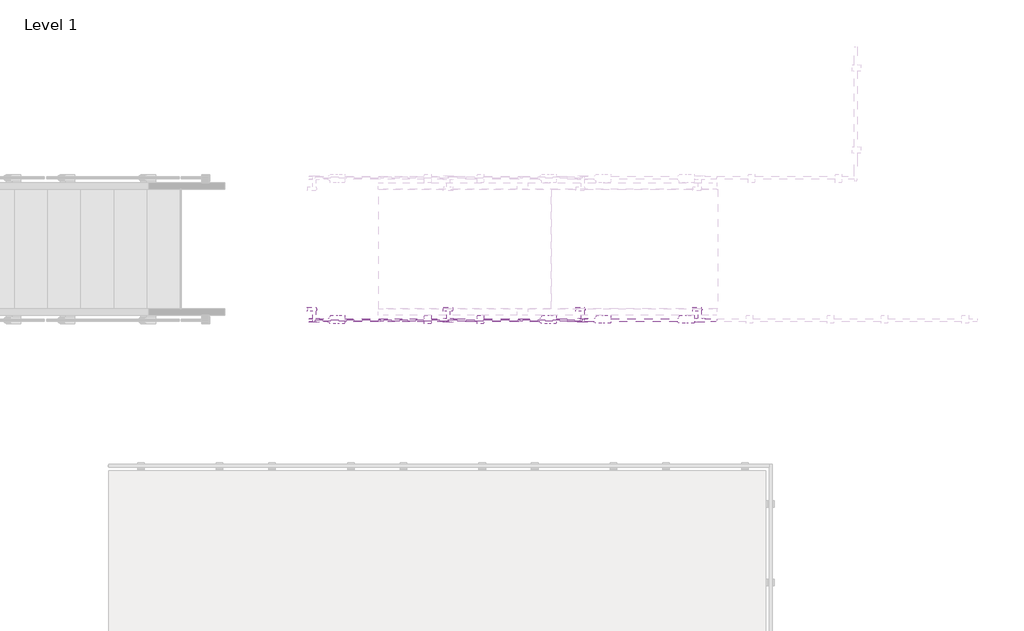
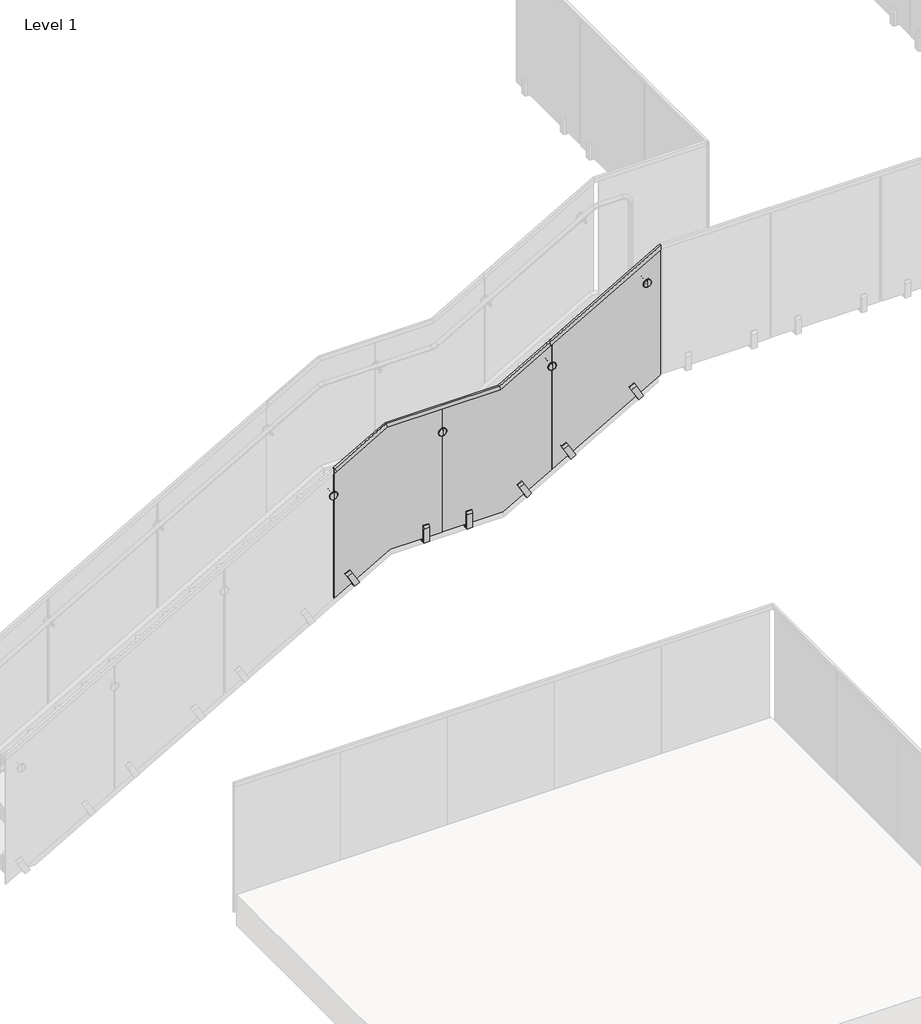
# One storey, part 9 of 17: 4 railings.
"""IFC4 building model written with IfcOpenShell, lengths in millimetres."""

from ifc_helpers import new_model, si_unit, point, frame, frame_2d, origin, place, context, project, spatial, polyline, circle_curve, trimmed, segment, composite_curve, outline, extrude, faceted_brep, transform, mapped, element, save
from ifc_brep_helpers import plane_surface, cylinder_surface, revolved_surface, advanced_brep
from components import standard_glass_04df66c8, standard_glass_2ae5cd5a

model = new_model("IFC4")

# Units and contexts
model_context = context("Model", 3, world=origin())
ifc_project = project(units=[si_unit("LENGTHUNIT", "METRE", prefix="MILLI")], contexts=[model_context])

# Site, building, storey
site = spatial("IfcSite", under=ifc_project)
building = spatial("IfcBuilding", under=site)
storey = spatial("IfcBuildingStorey", under=building, Name="Level 1", Elevation=0.0)

# Railings
placement = place(None, origin())
element("IfcRailing", 1, ObjectType="VIVA-VISIO-Glass-Steel Fascia Mount-Stair-Landing", at=placement, inside=storey, context=model_context, shape_type="SolidModel", body=[
    faceted_brep([(27379.4112561, -12655.1667549, 2993.5714286), (27379.4112561, -12676.8956611, 2993.5714286), (27862.0112561, -12676.8956611, 3269.3428571), (27862.0112561, -12655.1667549, 3269.3428571), (27398.3141496, -12655.1667549, 2960.4913649), (27872.1292611, -12655.1667549, 3231.2428571), (27398.3141496, -12659.681208, 2960.4913649), (27872.1292611, -12659.681208, 3231.2428571), (27381.3015454, -12659.681208, 2990.2634222), (27863.0230566, -12659.681208, 3265.5328571), (27381.3015454, -12672.381208, 2990.2634222), (27863.0230566, -12672.381208, 3265.5328571), (27398.3141496, -12672.381208, 2960.4913649), (27872.1292611, -12672.381208, 3231.2428571), (27398.3141496, -12676.8956611, 2960.4913649), (27872.1292611, -12676.8956611, 3231.2428571), (28928.8112561, -12676.8956611, 3269.3428571), (28928.8112561, -12655.1667549, 3269.3428571), (28938.9292611, -12655.1667549, 3231.2428571), (28938.9292611, -12659.681208, 3231.2428571), (28929.8230566, -12659.681208, 3265.5328571), (28929.8230566, -12672.381208, 3265.5328571), (28938.9292611, -12672.381208, 3231.2428571), (28938.9292611, -12676.8956611, 3231.2428571), (29407.4425061, -12676.8956611, 3542.8464286), (29407.4425061, -12676.8956611, 3498.9647114), (29407.4425061, -12672.381208, 3498.9647114), (29407.4425061, -12672.381208, 3538.4582569), (29407.4425061, -12659.681208, 3538.4582569), (29407.4425061, -12659.681208, 3498.9647114), (29407.4425061, -12655.1667549, 3498.9647114), (29407.4425061, -12655.1667549, 3542.8464286), (27369.8862561, -12676.8956611, 2988.1285714), (27369.8862561, -12655.1667549, 2988.1285714), (27369.8862561, -12655.1667549, 2944.2468543), (27369.8862561, -12659.681208, 2944.2468543), (27369.8862561, -12659.681208, 2983.7403997), (27369.8862561, -12672.381208, 2983.7403997), (27369.8862561, -12672.381208, 2944.2468543), (27369.8862561, -12676.8956611, 2944.2468543)], [[[0, 1, 2, 3]], [[4, 0, 3, 5]], [[6, 4, 5, 7]], [[8, 6, 7, 9]], [[10, 8, 9, 11]], [[12, 10, 11, 13]], [[14, 12, 13, 15]], [[1, 14, 15, 2]], [[3, 2, 16, 17]], [[5, 3, 17, 18]], [[7, 5, 18, 19]], [[9, 7, 19, 20]], [[11, 9, 20, 21]], [[13, 11, 21, 22]], [[15, 13, 22, 23]], [[2, 15, 23, 16]], [[24, 25, 26, 27, 28, 29, 30, 31]], [[17, 16, 24, 31]], [[18, 17, 31, 30]], [[19, 18, 30, 29]], [[20, 19, 29, 28]], [[21, 20, 28, 27]], [[22, 21, 27, 26]], [[23, 22, 26, 25]], [[16, 23, 25, 24]], [[32, 33, 34, 35, 36, 37, 38, 39]], [[33, 32, 1, 0]], [[34, 33, 0, 4]], [[35, 34, 4, 6]], [[36, 35, 6, 8]], [[37, 36, 8, 10]], [[38, 37, 10, 12]], [[39, 38, 12, 14]], [[32, 39, 14, 1]]]),
    extrude(outline(polyline([(0.0, 12.7), (50.8, 12.7), (50.8, 0.0), (0.0, 0.0), (0.0, 12.7)])), frame((29178.329198, -12640.5617549, 2085.3316006), z_axis=(-0.4961389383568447, 0.0, 0.868243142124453), x_axis=(0.868243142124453, 0.0, 0.4961389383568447)), (0.0, 0.0, 1.0), 135.5680003),
    extrude(outline(polyline([(0.0, 12.7), (50.8, 12.7), (50.8, 0.0), (0.0, 0.0), (0.0, 12.7)])), frame((29179.5727872, -12672.3117549, 2083.1553196), z_axis=(-0.496138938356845, 0.0, 0.8682431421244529), x_axis=(0.8682431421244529, 0.0, 0.496138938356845)), (0.0, 0.0, 1.0), 36.5125),
    extrude(outline(polyline([(0.0, 0.0), (0.0, 19.05), (166.6875, 19.05), (166.6875, 11.1125), (139.7, 0.0), (0.0, 0.0)])), frame((29179.5727872, -12640.5617549, 2083.1553196), z_axis=(0.868243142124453, 0.0, 0.49613893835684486), x_axis=(-0.49613893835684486, 0.0, 0.868243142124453)), (0.0, 0.0, 1.0), 50.8),
    extrude(outline(polyline([(0.0, 50.8), (139.7, 50.8), (166.6875, 39.6875), (166.6875, 31.75), (0.0, 31.75), (0.0, 50.8)])), frame((29179.5727872, -12640.5617549, 2083.1553196), z_axis=(0.868243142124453, 0.0, 0.49613893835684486), x_axis=(-0.49613893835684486, 0.0, 0.868243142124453)), (0.0, 0.0, 1.0), 50.8),
    extrude(outline(polyline([(28616.8479341, -12627.8617549), (28667.6479341, -12627.8617549), (28667.6479341, -12640.5617549), (28616.8479341, -12640.5617549), (28616.8479341, -12627.8617549)])), frame((0.0, 0.0, 1969.2196818), z_axis=(0.0, 0.0, 1.0), x_axis=(1.0, 0.0, 0.0)), (0.0, 0.0, 1.0), 135.5680003),
    extrude(outline(polyline([(28616.8479341, -12659.6117549), (28667.6479341, -12659.6117549), (28667.6479341, -12672.3117549), (28616.8479341, -12672.3117549), (28616.8479341, -12659.6117549)])), frame((0.0, 0.0, 1966.7131478), z_axis=(0.0, 0.0, 1.0), x_axis=(1.0, 0.0, 0.0)), (0.0, 0.0, 1.0), 36.5125),
    extrude(outline(polyline([(-12640.5617549, 1966.7131478), (-12659.6117549, 1966.7131478), (-12659.6117549, 2133.4006478), (-12651.6742549, 2133.4006478), (-12640.5617549, 2106.4131478), (-12640.5617549, 1966.7131478)])), frame((28616.8479341, 0.0, 0.0), z_axis=(1.0, 0.0, 0.0), x_axis=(0.0, 1.0, 0.0)), (0.0, 0.0, 1.0), 50.8),
    extrude(outline(polyline([(-12691.3617549, 1966.7131478), (-12691.3617549, 2106.4131478), (-12680.2492549, 2133.4006478), (-12672.3117549, 2133.4006478), (-12672.3117549, 1966.7131478), (-12691.3617549, 1966.7131478)])), frame((28616.8479341, 0.0, 0.0), z_axis=(1.0, 0.0, 0.0), x_axis=(0.0, 1.0, 0.0)), (0.0, 0.0, 1.0), 50.8),
    extrude(outline(composite_curve([segment(trimmed(circle_curve(frame_2d((0.0, -7.0)), 7.0), [point((0.0, -14.0))], [point((0.0, 0.0))], False, "CARTESIAN"), True, "CONTINUOUS"), segment(trimmed(circle_curve(frame_2d((0.0, -7.0)), 7.0), [point((0.0, 0.0))], [point((0.0, -14.0))], False, "CARTESIAN"), True, "CONTINUOUS")], self_intersect=False)), frame((28393.4268811, -12590.7418939, 2977.3279722), z_axis=(-0.0016124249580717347, 0.0, 0.9999987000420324), x_axis=(-0.9999987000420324, 0.0, -0.0016124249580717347)), (0.0, 0.0, 1.0), 52.8378352),
    extrude(outline(composite_curve([segment(polyline([(5.2466064, -13.9247915), (4.2292193, -14.9511811)]), True, "CONTINUOUS"), segment(trimmed(circle_curve(frame_2d((3.1638974, -13.8952033)), 1.5), [point((4.2292193, -14.9511811))], [point((2.0329757, -14.8806047))], False, "CARTESIAN"), True, "CONTINUOUS"), segment(trimmed(circle_curve(frame_2d((18.6575252, -0.3952033)), 22.05), [point((2.0329757, -14.8806047))], [point((2.0329757, 14.0901982))], False, "CARTESIAN"), True, "CONTINUOUS"), segment(trimmed(circle_curve(frame_2d((3.1638974, 13.1047967)), 1.5), [point((2.0329757, 14.0901982))], [point((4.2292193, 14.1607746))], False, "CARTESIAN"), True, "CONTINUOUS"), segment(polyline([(4.2292193, 14.1607746), (5.2466064, 13.134385)]), True, "CONTINUOUS"), segment(trimmed(circle_curve(frame_2d((18.6575252, -0.3952033)), 19.05), [point((5.2466064, 13.134385))], [point((5.2466064, -13.9247915))], True, "CARTESIAN"), True, "CONTINUOUS")], self_intersect=False)), frame((28429.1944392, -12582.0146616, 3033.4996008), z_axis=(-0.9999989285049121, 0.0, 0.0014638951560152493), x_axis=(0.0014638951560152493, 0.0, 0.9999989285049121)), (0.0, 0.0, 1.0), 74.5229187),
    extrude(outline(composite_curve([segment(trimmed(circle_curve(frame_2d((3002.8968571, 28393.4268811)), 11.0132813), [point((3002.8968571, 28404.4401623))], [point((3002.8968571, 28382.4135998))], False, "CARTESIAN"), True, "CONTINUOUS"), segment(trimmed(circle_curve(frame_2d((3002.8968571, 28393.4268811)), 11.0132813), [point((3002.8968571, 28382.4135998))], [point((3002.8968571, 28404.4401623))], False, "CARTESIAN"), True, "CONTINUOUS")], self_intersect=False)), frame((0.0, -12649.9875361, 0.0), z_axis=(0.0, 1.0, 0.0), x_axis=(0.0, 0.0, 1.0)), (0.0, 0.0, 1.0), 79.2757812),
    advanced_brep(
    [(28393.4268811, -12681.9359736, 3002.8968571), (28393.4268811, -12681.9359736, 3039.0124821), (28393.4268811, -12681.9359736, 2966.7812321), (28393.4268811, -12649.9875361, 2966.7812321), (28393.4268811, -12649.9875361, 3039.0124821), (28393.4268811, -12649.9875361, 3002.8968571), (28393.4268811, -12651.9719111, 2964.7968571), (28393.4268811, -12651.9719111, 3040.9968571), (28393.4268811, -12659.6117549, 2964.7968571), (28393.4268811, -12659.6117549, 3040.9968571), (28393.4268811, -12659.6117549, 2990.1968571), (28393.4268811, -12659.6117549, 3015.5968571), (28393.4268811, -12672.3117549, 2990.1968571), (28393.4268811, -12672.3117549, 3015.5968571), (28393.4268811, -12672.3117549, 2964.7968571), (28393.4268811, -12672.3117549, 3040.9968571), (28393.4268811, -12679.9515986, 2964.7968571), (28393.4268811, -12679.9515986, 3040.9968571)],
    [
        (0, 1),
        (1, 2, circle_curve(frame((28393.4268811, -12681.9359736, 3002.8968571), z_axis=(0.0, -1.0, 0.0), x_axis=(0.0, 0.0, 1.0)), 36.115625)),
        (2, 0),
        (2, 1, circle_curve(frame((28393.4268811, -12681.9359736, 3002.8968571), z_axis=(0.0, -1.0, 0.0), x_axis=(0.0, 0.0, 1.0)), 36.115625)),
        (3, 4, circle_curve(frame((28393.4268811, -12649.9875361, 3002.8968571), z_axis=(0.0, 1.0, 0.0), x_axis=(0.0, 0.0, 1.0)), 36.115625)),
        (4, 5),
        (5, 3),
        (4, 3, circle_curve(frame((28393.4268811, -12649.9875361, 3002.8968571), z_axis=(0.0, 1.0, 0.0), x_axis=(0.0, 0.0, 1.0)), 36.115625)),
        (6, 7, circle_curve(frame((28393.4268811, -12651.9719111, 3002.8968571), z_axis=(0.0, 1.0, 0.0), x_axis=(0.0, 0.0, 1.0)), 38.1)),
        (7, 4),
        (3, 6),
        (7, 6, circle_curve(frame((28393.4268811, -12651.9719111, 3002.8968571), z_axis=(0.0, 1.0, 0.0), x_axis=(0.0, 0.0, 1.0)), 38.1)),
        (8, 9, circle_curve(frame((28393.4268811, -12659.6117549, 3002.8968571), z_axis=(0.0, 1.0, 0.0), x_axis=(0.0, 0.0, 1.0)), 38.1)),
        (9, 7),
        (6, 8),
        (9, 8, circle_curve(frame((28393.4268811, -12659.6117549, 3002.8968571), z_axis=(0.0, 1.0, 0.0), x_axis=(0.0, 0.0, 1.0)), 38.1)),
        (10, 11, circle_curve(frame((28393.4268811, -12659.6117549, 3002.8968571), z_axis=(0.0, 1.0, 0.0), x_axis=(0.0, 0.0, 1.0)), 12.7)),
        (11, 9),
        (8, 10),
        (11, 10, circle_curve(frame((28393.4268811, -12659.6117549, 3002.8968571), z_axis=(0.0, 1.0, 0.0), x_axis=(0.0, 0.0, 1.0)), 12.7)),
        (12, 13, circle_curve(frame((28393.4268811, -12672.3117549, 3002.8968571), z_axis=(0.0, 1.0, 0.0), x_axis=(0.0, 0.0, 1.0)), 12.7)),
        (13, 11),
        (10, 12),
        (13, 12, circle_curve(frame((28393.4268811, -12672.3117549, 3002.8968571), z_axis=(0.0, 1.0, 0.0), x_axis=(0.0, 0.0, 1.0)), 12.7)),
        (14, 15, circle_curve(frame((28393.4268811, -12672.3117549, 3002.8968571), z_axis=(0.0, 1.0, 0.0), x_axis=(0.0, 0.0, 1.0)), 38.1)),
        (15, 13),
        (12, 14),
        (15, 14, circle_curve(frame((28393.4268811, -12672.3117549, 3002.8968571), z_axis=(0.0, 1.0, 0.0), x_axis=(0.0, 0.0, 1.0)), 38.1)),
        (16, 17, circle_curve(frame((28393.4268811, -12679.9515986, 3002.8968571), z_axis=(0.0, 1.0, 0.0), x_axis=(0.0, 0.0, 1.0)), 38.1)),
        (17, 15),
        (14, 16),
        (17, 16, circle_curve(frame((28393.4268811, -12679.9515986, 3002.8968571), z_axis=(0.0, 1.0, 0.0), x_axis=(0.0, 0.0, 1.0)), 38.1)),
        (1, 17),
        (16, 2),
    ],
    [
        plane_surface(frame((28393.4268811, -12681.9359736, 3002.8968571), z_axis=(0.0, -1.0, 0.0), x_axis=(0.0, 0.0, 1.0))),
        plane_surface(frame((28393.4268811, -12649.9875361, 3002.8968571), z_axis=(0.0, 1.0, 0.0), x_axis=(0.0, 0.0, 1.0))),
        revolved_surface(polyline([(28393.4268811, -12649.9875361, 3039.0124821), (28393.4268811, -12651.9719111, 3040.9968571)]), (28393.4268811, -12718.0515986, 3002.8968571), (0.0, -1.0, 0.0)),
        cylinder_surface(frame((28393.4268811, -12718.0515986, 3002.8968571), z_axis=(0.0, -1.0, 0.0), x_axis=(0.0, 0.0, 1.0)), 38.1),
        plane_surface(frame((28393.4268811, -12659.6117549, 3002.8968571), z_axis=(0.0, -1.0, 0.0), x_axis=(0.0, 0.0, 1.0))),
        cylinder_surface(frame((28393.4268811, -12718.0515986, 3002.8968571), z_axis=(0.0, -1.0, 0.0), x_axis=(0.0, 0.0, 1.0)), 12.7),
        plane_surface(frame((28393.4268811, -12672.3117549, 3002.8968571), z_axis=(0.0, 1.0, 0.0), x_axis=(0.0, 0.0, 1.0))),
        revolved_surface(polyline([(28393.4268811, -12679.9515986, 3040.9968571), (28393.4268811, -12681.9359736, 3039.0124821)]), (28393.4268811, -12718.0515986, 3002.8968571), (0.0, -1.0, 0.0)),
    ],
    [
        (0, [[1, 2, 3]]),
        (0, [[-3, 4, -1]]),
        (1, [[5, 6, 7]]),
        (1, [[8, -7, -6]]),
        (2, [[9, 10, -5, 11]]),
        (2, [[12, -11, -8, -10]]),
        (3, [[13, 14, -9, 15]]),
        (3, [[16, -15, -12, -14]]),
        (4, [[17, 18, -13, 19]]),
        (4, [[20, -19, -16, -18]]),
        (5, [[21, 22, -17, 23]]),
        (5, [[24, -23, -20, -22]]),
        (6, [[25, 26, -21, 27]]),
        (6, [[28, -27, -24, -26]]),
        (3, [[29, 30, -25, 31]]),
        (3, [[32, -31, -28, -30]]),
        (7, [[-2, 33, -29, 34]]),
        (7, [[-4, -34, -32, -33]]),
    ],
),
    extrude(outline(polyline([(28211.2416841, -12627.8617549), (28262.0416841, -12627.8617549), (28262.0416841, -12640.5617549), (28211.2416841, -12640.5617549), (28211.2416841, -12627.8617549)])), frame((0.0, 0.0, 1969.2196818), z_axis=(0.0, 0.0, 1.0), x_axis=(1.0, 0.0, 0.0)), (0.0, 0.0, 1.0), 135.5680003),
    extrude(outline(polyline([(28211.2416841, -12659.6117549), (28262.0416841, -12659.6117549), (28262.0416841, -12672.3117549), (28211.2416841, -12672.3117549), (28211.2416841, -12659.6117549)])), frame((0.0, 0.0, 1966.7131478), z_axis=(0.0, 0.0, 1.0), x_axis=(1.0, 0.0, 0.0)), (0.0, 0.0, 1.0), 36.5125),
    extrude(outline(polyline([(-12640.5617549, 1966.7131478), (-12659.6117549, 1966.7131478), (-12659.6117549, 2133.4006478), (-12651.6742549, 2133.4006478), (-12640.5617549, 2106.4131478), (-12640.5617549, 1966.7131478)])), frame((28211.2416841, 0.0, 0.0), z_axis=(1.0, 0.0, 0.0), x_axis=(0.0, 1.0, 0.0)), (0.0, 0.0, 1.0), 50.8),
    extrude(outline(polyline([(-12691.3617549, 1966.7131478), (-12691.3617549, 2106.4131478), (-12680.2492549, 2133.4006478), (-12672.3117549, 2133.4006478), (-12672.3117549, 1966.7131478), (-12691.3617549, 1966.7131478)])), frame((28211.2416841, 0.0, 0.0), z_axis=(1.0, 0.0, 0.0), x_axis=(0.0, 1.0, 0.0)), (0.0, 0.0, 1.0), 50.8),
    extrude(outline(polyline([(0.0, 12.7), (50.8, 12.7), (50.8, 0.0), (0.0, 0.0), (0.0, 12.7)])), frame((27555.904198, -12640.5617549, 1767.8316006), z_axis=(-0.4961389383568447, 0.0, 0.868243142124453), x_axis=(0.868243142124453, 0.0, 0.4961389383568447)), (0.0, 0.0, 1.0), 135.5680003),
    extrude(outline(polyline([(0.0, 12.7), (50.8, 12.7), (50.8, 0.0), (0.0, 0.0), (0.0, 12.7)])), frame((27557.1477872, -12672.3117549, 1765.6553196), z_axis=(-0.496138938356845, 0.0, 0.8682431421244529), x_axis=(0.8682431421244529, 0.0, 0.496138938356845)), (0.0, 0.0, 1.0), 36.5125),
    extrude(outline(polyline([(0.0, 0.0), (0.0, 19.05), (166.6875, 19.05), (166.6875, 11.1125), (139.7, 0.0), (0.0, 0.0)])), frame((27557.1477872, -12640.5617549, 1765.6553196), z_axis=(0.868243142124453, 0.0, 0.49613893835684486), x_axis=(-0.49613893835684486, 0.0, 0.868243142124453)), (0.0, 0.0, 1.0), 50.8),
    extrude(outline(polyline([(0.0, 50.8), (139.7, 50.8), (166.6875, 39.6875), (166.6875, 31.75), (0.0, 31.75), (0.0, 50.8)])), frame((27557.1477872, -12640.5617549, 1765.6553196), z_axis=(0.868243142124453, 0.0, 0.49613893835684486), x_axis=(-0.49613893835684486, 0.0, 0.868243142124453)), (0.0, 0.0, 1.0), 50.8),
    extrude(outline(composite_curve([segment(trimmed(circle_curve(frame_2d((0.0, -7.0)), 7.0), [point((0.0, -14.0))], [point((0.0, 0.0))], False, "CARTESIAN"), True, "CONTINUOUS"), segment(trimmed(circle_curve(frame_2d((0.0, -7.0)), 7.0), [point((0.0, 0.0))], [point((0.0, -14.0))], False, "CARTESIAN"), True, "CONTINUOUS")], self_intersect=False)), frame((29438.0186992, -12590.7418939, 3273.5679131), z_axis=(-0.5018548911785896, 0.0, 0.8649518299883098), x_axis=(-0.8649518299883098, 0.0, -0.5018548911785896)), (0.0, 0.0, 1.0), 52.8378352),
    extrude(outline(composite_curve([segment(trimmed(circle_curve(frame_2d((18.6575252, 0.3952033)), 19.05), [point((5.2466064, 13.9247915))], [point((5.2466064, -13.134385))], True, "CARTESIAN"), True, "CONTINUOUS"), segment(polyline([(5.2466064, -13.134385), (4.2292193, -14.1607746)]), True, "CONTINUOUS"), segment(trimmed(circle_curve(frame_2d((3.1638974, -13.1047967)), 1.5), [point((4.2292193, -14.1607746))], [point((2.0329757, -14.0901982))], False, "CARTESIAN"), True, "CONTINUOUS"), segment(trimmed(circle_curve(frame_2d((18.6575252, 0.3952033)), 22.05), [point((2.0329757, -14.0901982))], [point((2.0329757, 14.8806047))], False, "CARTESIAN"), True, "CONTINUOUS"), segment(trimmed(circle_curve(frame_2d((3.1638974, 13.8952033)), 1.5), [point((2.0329757, 14.8806047))], [point((4.2292193, 14.9511811))], False, "CARTESIAN"), True, "CONTINUOUS"), segment(polyline([(4.2292193, 14.9511811), (5.2466064, 13.9247915)]), True, "CONTINUOUS")], self_intersect=False)), frame((29373.5509171, -12582.0146616, 3301.3090959), z_axis=(0.8664916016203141, 0.0, 0.49919165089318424), x_axis=(-0.49919165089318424, 0.0, 0.8664916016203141)), (0.0, 0.0, 1.0), 74.5229187),
    extrude(outline(composite_curve([segment(trimmed(circle_curve(frame_2d((3295.7044286, 29425.2225061)), 11.0132813), [point((3295.7044286, 29436.2357873))], [point((3295.7044286, 29414.2092248))], False, "CARTESIAN"), True, "CONTINUOUS"), segment(trimmed(circle_curve(frame_2d((3295.7044286, 29425.2225061)), 11.0132813), [point((3295.7044286, 29414.2092248))], [point((3295.7044286, 29436.2357873))], False, "CARTESIAN"), True, "CONTINUOUS")], self_intersect=False)), frame((0.0, -12649.9875361, 0.0), z_axis=(0.0, 1.0, 0.0), x_axis=(0.0, 0.0, 1.0)), (0.0, 0.0, 1.0), 79.2757812),
    advanced_brep(
    [(29425.2225061, -12681.9359736, 3295.7044286), (29425.2225061, -12681.9359736, 3331.8200536), (29425.2225061, -12681.9359736, 3259.5888036), (29425.2225061, -12649.9875361, 3259.5888036), (29425.2225061, -12649.9875361, 3331.8200536), (29425.2225061, -12649.9875361, 3295.7044286), (29425.2225061, -12651.9719111, 3257.6044286), (29425.2225061, -12651.9719111, 3333.8044286), (29425.2225061, -12659.6117549, 3257.6044286), (29425.2225061, -12659.6117549, 3333.8044286), (29425.2225061, -12659.6117549, 3283.0044286), (29425.2225061, -12659.6117549, 3308.4044286), (29425.2225061, -12672.3117549, 3283.0044286), (29425.2225061, -12672.3117549, 3308.4044286), (29425.2225061, -12672.3117549, 3257.6044286), (29425.2225061, -12672.3117549, 3333.8044286), (29425.2225061, -12679.9515986, 3257.6044286), (29425.2225061, -12679.9515986, 3333.8044286)],
    [
        (0, 1),
        (1, 2, circle_curve(frame((29425.2225061, -12681.9359736, 3295.7044286), z_axis=(0.0, -1.0, 0.0), x_axis=(0.0, 0.0, 1.0)), 36.115625)),
        (2, 0),
        (2, 1, circle_curve(frame((29425.2225061, -12681.9359736, 3295.7044286), z_axis=(0.0, -1.0, 0.0), x_axis=(0.0, 0.0, 1.0)), 36.115625)),
        (3, 4, circle_curve(frame((29425.2225061, -12649.9875361, 3295.7044286), z_axis=(0.0, 1.0, 0.0), x_axis=(0.0, 0.0, 1.0)), 36.115625)),
        (4, 5),
        (5, 3),
        (4, 3, circle_curve(frame((29425.2225061, -12649.9875361, 3295.7044286), z_axis=(0.0, 1.0, 0.0), x_axis=(0.0, 0.0, 1.0)), 36.115625)),
        (6, 7, circle_curve(frame((29425.2225061, -12651.9719111, 3295.7044286), z_axis=(0.0, 1.0, 0.0), x_axis=(0.0, 0.0, 1.0)), 38.1)),
        (7, 4),
        (3, 6),
        (7, 6, circle_curve(frame((29425.2225061, -12651.9719111, 3295.7044286), z_axis=(0.0, 1.0, 0.0), x_axis=(0.0, 0.0, 1.0)), 38.1)),
        (8, 9, circle_curve(frame((29425.2225061, -12659.6117549, 3295.7044286), z_axis=(0.0, 1.0, 0.0), x_axis=(0.0, 0.0, 1.0)), 38.1)),
        (9, 7),
        (6, 8),
        (9, 8, circle_curve(frame((29425.2225061, -12659.6117549, 3295.7044286), z_axis=(0.0, 1.0, 0.0), x_axis=(0.0, 0.0, 1.0)), 38.1)),
        (10, 11, circle_curve(frame((29425.2225061, -12659.6117549, 3295.7044286), z_axis=(0.0, 1.0, 0.0), x_axis=(0.0, 0.0, 1.0)), 12.7)),
        (11, 9),
        (8, 10),
        (11, 10, circle_curve(frame((29425.2225061, -12659.6117549, 3295.7044286), z_axis=(0.0, 1.0, 0.0), x_axis=(0.0, 0.0, 1.0)), 12.7)),
        (12, 13, circle_curve(frame((29425.2225061, -12672.3117549, 3295.7044286), z_axis=(0.0, 1.0, 0.0), x_axis=(0.0, 0.0, 1.0)), 12.7)),
        (13, 11),
        (10, 12),
        (13, 12, circle_curve(frame((29425.2225061, -12672.3117549, 3295.7044286), z_axis=(0.0, 1.0, 0.0), x_axis=(0.0, 0.0, 1.0)), 12.7)),
        (14, 15, circle_curve(frame((29425.2225061, -12672.3117549, 3295.7044286), z_axis=(0.0, 1.0, 0.0), x_axis=(0.0, 0.0, 1.0)), 38.1)),
        (15, 13),
        (12, 14),
        (15, 14, circle_curve(frame((29425.2225061, -12672.3117549, 3295.7044286), z_axis=(0.0, 1.0, 0.0), x_axis=(0.0, 0.0, 1.0)), 38.1)),
        (16, 17, circle_curve(frame((29425.2225061, -12679.9515986, 3295.7044286), z_axis=(0.0, 1.0, 0.0), x_axis=(0.0, 0.0, 1.0)), 38.1)),
        (17, 15),
        (14, 16),
        (17, 16, circle_curve(frame((29425.2225061, -12679.9515986, 3295.7044286), z_axis=(0.0, 1.0, 0.0), x_axis=(0.0, 0.0, 1.0)), 38.1)),
        (1, 17),
        (16, 2),
    ],
    [
        plane_surface(frame((29425.2225061, -12681.9359736, 3295.7044286), z_axis=(0.0, -1.0, 0.0), x_axis=(0.0, 0.0, 1.0))),
        plane_surface(frame((29425.2225061, -12649.9875361, 3295.7044286), z_axis=(0.0, 1.0, 0.0), x_axis=(0.0, 0.0, 1.0))),
        revolved_surface(polyline([(29425.2225061, -12649.9875361, 3331.8200536), (29425.2225061, -12651.9719111, 3333.8044286)]), (29425.2225061, -12718.0515986, 3295.7044286), (0.0, -1.0, 0.0)),
        cylinder_surface(frame((29425.2225061, -12718.0515986, 3295.7044286), z_axis=(0.0, -1.0, 0.0), x_axis=(0.0, 0.0, 1.0)), 38.1),
        plane_surface(frame((29425.2225061, -12659.6117549, 3295.7044286), z_axis=(0.0, -1.0, 0.0), x_axis=(0.0, 0.0, 1.0))),
        cylinder_surface(frame((29425.2225061, -12718.0515986, 3295.7044286), z_axis=(0.0, -1.0, 0.0), x_axis=(0.0, 0.0, 1.0)), 12.7),
        plane_surface(frame((29425.2225061, -12672.3117549, 3295.7044286), z_axis=(0.0, 1.0, 0.0), x_axis=(0.0, 0.0, 1.0))),
        revolved_surface(polyline([(29425.2225061, -12679.9515986, 3333.8044286), (29425.2225061, -12681.9359736, 3331.8200536)]), (29425.2225061, -12718.0515986, 3295.7044286), (0.0, -1.0, 0.0)),
    ],
    [
        (0, [[1, 2, 3]]),
        (0, [[-3, 4, -1]]),
        (1, [[5, 6, 7]]),
        (1, [[8, -7, -6]]),
        (2, [[9, 10, -5, 11]]),
        (2, [[12, -11, -8, -10]]),
        (3, [[13, 14, -9, 15]]),
        (3, [[16, -15, -12, -14]]),
        (4, [[17, 18, -13, 19]]),
        (4, [[20, -19, -16, -18]]),
        (5, [[21, 22, -17, 23]]),
        (5, [[24, -23, -20, -22]]),
        (6, [[25, 26, -21, 27]]),
        (6, [[28, -27, -24, -26]]),
        (3, [[29, 30, -25, 31]]),
        (3, [[32, -31, -28, -30]]),
        (7, [[-2, 33, -29, 34]]),
        (7, [[-4, -34, -32, -33]]),
    ],
),
    extrude(outline(composite_curve([segment(trimmed(circle_curve(frame_2d((0.0, -7.0)), 7.0), [point((0.0, -14.0))], [point((0.0, 0.0))], False, "CARTESIAN"), True, "CONTINUOUS"), segment(trimmed(circle_curve(frame_2d((0.0, -7.0)), 7.0), [point((0.0, 0.0))], [point((0.0, -14.0))], False, "CARTESIAN"), True, "CONTINUOUS")], self_intersect=False)), frame((27379.5074492, -12590.7418939, 2706.8757702), z_axis=(-0.5018548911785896, 0.0, 0.8649518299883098), x_axis=(-0.8649518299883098, 0.0, -0.5018548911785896)), (0.0, 0.0, 1.0), 52.8378352),
    extrude(outline(composite_curve([segment(trimmed(circle_curve(frame_2d((18.6575251, 0.3952033)), 19.05), [point((5.2466063, 13.9247915))], [point((5.2466063, -13.134385))], True, "CARTESIAN"), True, "CONTINUOUS"), segment(polyline([(5.2466063, -13.134385), (4.2292193, -14.1607746)]), True, "CONTINUOUS"), segment(trimmed(circle_curve(frame_2d((3.1638974, -13.1047967)), 1.5), [point((4.2292193, -14.1607746))], [point((2.0329756, -14.0901982))], False, "CARTESIAN"), True, "CONTINUOUS"), segment(trimmed(circle_curve(frame_2d((18.6575251, 0.3952033)), 22.05), [point((2.0329756, -14.0901982))], [point((2.0329756, 14.8806047))], False, "CARTESIAN"), True, "CONTINUOUS"), segment(trimmed(circle_curve(frame_2d((3.1638974, 13.8952033)), 1.5), [point((2.0329756, 14.8806047))], [point((4.2292193, 14.9511811))], False, "CARTESIAN"), True, "CONTINUOUS"), segment(polyline([(4.2292193, 14.9511811), (5.2466063, 13.9247915)]), True, "CONTINUOUS")], self_intersect=False)), frame((27315.0396672, -12582.0146616, 2734.6169531), z_axis=(0.8664916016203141, 0.0, 0.49919165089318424), x_axis=(-0.49919165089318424, 0.0, 0.8664916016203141)), (0.0, 0.0, 1.0), 74.5229187),
    extrude(outline(composite_curve([segment(trimmed(circle_curve(frame_2d((2729.0122857, 27366.7112561)), 11.0132813), [point((2729.0122857, 27377.7245373))], [point((2729.0122857, 27355.6979748))], False, "CARTESIAN"), True, "CONTINUOUS"), segment(trimmed(circle_curve(frame_2d((2729.0122857, 27366.7112561)), 11.0132813), [point((2729.0122857, 27355.6979748))], [point((2729.0122857, 27377.7245373))], False, "CARTESIAN"), True, "CONTINUOUS")], self_intersect=False)), frame((0.0, -12649.9875361, 0.0), z_axis=(0.0, 1.0, 0.0), x_axis=(0.0, 0.0, 1.0)), (0.0, 0.0, 1.0), 79.2757812),
    advanced_brep(
    [(27366.7112561, -12681.9359736, 2729.0122857), (27366.7112561, -12681.9359736, 2765.1279107), (27366.7112561, -12681.9359736, 2692.8966607), (27366.7112561, -12649.9875361, 2692.8966607), (27366.7112561, -12649.9875361, 2765.1279107), (27366.7112561, -12649.9875361, 2729.0122857), (27366.7112561, -12651.9719111, 2690.9122857), (27366.7112561, -12651.9719111, 2767.1122857), (27366.7112561, -12659.6117549, 2690.9122857), (27366.7112561, -12659.6117549, 2767.1122857), (27366.7112561, -12659.6117549, 2716.3122857), (27366.7112561, -12659.6117549, 2741.7122857), (27366.7112561, -12672.3117549, 2716.3122857), (27366.7112561, -12672.3117549, 2741.7122857), (27366.7112561, -12672.3117549, 2690.9122857), (27366.7112561, -12672.3117549, 2767.1122857), (27366.7112561, -12679.9515986, 2690.9122857), (27366.7112561, -12679.9515986, 2767.1122857)],
    [
        (0, 1),
        (1, 2, circle_curve(frame((27366.7112561, -12681.9359736, 2729.0122857), z_axis=(0.0, -1.0, 0.0), x_axis=(0.0, 0.0, 1.0)), 36.115625)),
        (2, 0),
        (2, 1, circle_curve(frame((27366.7112561, -12681.9359736, 2729.0122857), z_axis=(0.0, -1.0, 0.0), x_axis=(0.0, 0.0, 1.0)), 36.115625)),
        (3, 4, circle_curve(frame((27366.7112561, -12649.9875361, 2729.0122857), z_axis=(0.0, 1.0, 0.0), x_axis=(0.0, 0.0, 1.0)), 36.115625)),
        (4, 5),
        (5, 3),
        (4, 3, circle_curve(frame((27366.7112561, -12649.9875361, 2729.0122857), z_axis=(0.0, 1.0, 0.0), x_axis=(0.0, 0.0, 1.0)), 36.115625)),
        (6, 7, circle_curve(frame((27366.7112561, -12651.9719111, 2729.0122857), z_axis=(0.0, 1.0, 0.0), x_axis=(0.0, 0.0, 1.0)), 38.1)),
        (7, 4),
        (3, 6),
        (7, 6, circle_curve(frame((27366.7112561, -12651.9719111, 2729.0122857), z_axis=(0.0, 1.0, 0.0), x_axis=(0.0, 0.0, 1.0)), 38.1)),
        (8, 9, circle_curve(frame((27366.7112561, -12659.6117549, 2729.0122857), z_axis=(0.0, 1.0, 0.0), x_axis=(0.0, 0.0, 1.0)), 38.1)),
        (9, 7),
        (6, 8),
        (9, 8, circle_curve(frame((27366.7112561, -12659.6117549, 2729.0122857), z_axis=(0.0, 1.0, 0.0), x_axis=(0.0, 0.0, 1.0)), 38.1)),
        (10, 11, circle_curve(frame((27366.7112561, -12659.6117549, 2729.0122857), z_axis=(0.0, 1.0, 0.0), x_axis=(0.0, 0.0, 1.0)), 12.7)),
        (11, 9),
        (8, 10),
        (11, 10, circle_curve(frame((27366.7112561, -12659.6117549, 2729.0122857), z_axis=(0.0, 1.0, 0.0), x_axis=(0.0, 0.0, 1.0)), 12.7)),
        (12, 13, circle_curve(frame((27366.7112561, -12672.3117549, 2729.0122857), z_axis=(0.0, 1.0, 0.0), x_axis=(0.0, 0.0, 1.0)), 12.7)),
        (13, 11),
        (10, 12),
        (13, 12, circle_curve(frame((27366.7112561, -12672.3117549, 2729.0122857), z_axis=(0.0, 1.0, 0.0), x_axis=(0.0, 0.0, 1.0)), 12.7)),
        (14, 15, circle_curve(frame((27366.7112561, -12672.3117549, 2729.0122857), z_axis=(0.0, 1.0, 0.0), x_axis=(0.0, 0.0, 1.0)), 38.1)),
        (15, 13),
        (12, 14),
        (15, 14, circle_curve(frame((27366.7112561, -12672.3117549, 2729.0122857), z_axis=(0.0, 1.0, 0.0), x_axis=(0.0, 0.0, 1.0)), 38.1)),
        (16, 17, circle_curve(frame((27366.7112561, -12679.9515986, 2729.0122857), z_axis=(0.0, 1.0, 0.0), x_axis=(0.0, 0.0, 1.0)), 38.1)),
        (17, 15),
        (14, 16),
        (17, 16, circle_curve(frame((27366.7112561, -12679.9515986, 2729.0122857), z_axis=(0.0, 1.0, 0.0), x_axis=(0.0, 0.0, 1.0)), 38.1)),
        (1, 17),
        (16, 2),
    ],
    [
        plane_surface(frame((27366.7112561, -12681.9359736, 2729.0122857), z_axis=(0.0, -1.0, 0.0), x_axis=(0.0, 0.0, 1.0))),
        plane_surface(frame((27366.7112561, -12649.9875361, 2729.0122857), z_axis=(0.0, 1.0, 0.0), x_axis=(0.0, 0.0, 1.0))),
        revolved_surface(polyline([(27366.7112561, -12649.9875361, 2765.1279107), (27366.7112561, -12651.9719111, 2767.1122857)]), (27366.7112561, -12718.0515986, 2729.0122857), (0.0, -1.0, 0.0)),
        cylinder_surface(frame((27366.7112561, -12718.0515986, 2729.0122857), z_axis=(0.0, -1.0, 0.0), x_axis=(0.0, 0.0, 1.0)), 38.1),
        plane_surface(frame((27366.7112561, -12659.6117549, 2729.0122857), z_axis=(0.0, -1.0, 0.0), x_axis=(0.0, 0.0, 1.0))),
        cylinder_surface(frame((27366.7112561, -12718.0515986, 2729.0122857), z_axis=(0.0, -1.0, 0.0), x_axis=(0.0, 0.0, 1.0)), 12.7),
        plane_surface(frame((27366.7112561, -12672.3117549, 2729.0122857), z_axis=(0.0, 1.0, 0.0), x_axis=(0.0, 0.0, 1.0))),
        revolved_surface(polyline([(27366.7112561, -12679.9515986, 2767.1122857), (27366.7112561, -12681.9359736, 2765.1279107)]), (27366.7112561, -12718.0515986, 2729.0122857), (0.0, -1.0, 0.0)),
    ],
    [
        (0, [[1, 2, 3]]),
        (0, [[-3, 4, -1]]),
        (1, [[5, 6, 7]]),
        (1, [[8, -7, -6]]),
        (2, [[9, 10, -5, 11]]),
        (2, [[12, -11, -8, -10]]),
        (3, [[13, 14, -9, 15]]),
        (3, [[16, -15, -12, -14]]),
        (4, [[17, 18, -13, 19]]),
        (4, [[20, -19, -16, -18]]),
        (5, [[21, 22, -17, 23]]),
        (5, [[24, -23, -20, -22]]),
        (6, [[25, 26, -21, 27]]),
        (6, [[28, -27, -24, -26]]),
        (3, [[29, 30, -25, 31]]),
        (3, [[32, -31, -28, -30]]),
        (7, [[-2, 33, -29, 34]]),
        (7, [[-4, -34, -32, -33]]),
    ],
),
])
element("IfcRailing", 2, ObjectType="VIVA-VISIO-Glass-Steel Fascia Mount-Stair_Upper", at=placement, inside=storey, context=model_context, shape_type="SolidModel", body=[
    faceted_brep([(29407.4425061, -12676.826208, 3542.8464286), (29407.4425061, -12655.0973017, 3542.8464286), (29407.4425061, -12655.0973017, 3498.9647114), (29407.4425061, -12659.6117549, 3498.9647114), (29407.4425061, -12659.6117549, 3538.4582569), (29407.4425061, -12672.3117549, 3538.4582569), (29407.4425061, -12672.3117549, 3498.9647114), (29407.4425061, -12676.826208, 3498.9647114), (30452.8112561, -12676.826208, 4140.2), (30452.8112561, -12676.826208, 4096.3182828), (30452.8112561, -12672.3117549, 4096.3182828), (30452.8112561, -12672.3117549, 4135.8118283), (30452.8112561, -12659.6117549, 4135.8118283), (30452.8112561, -12659.6117549, 4096.3182828), (30452.8112561, -12655.0973017, 4096.3182828), (30452.8112561, -12655.0973017, 4140.2)], [[[0, 1, 2, 3, 4, 5, 6, 7]], [[8, 9, 10, 11, 12, 13, 14, 15]], [[1, 0, 8, 15]], [[2, 1, 15, 14]], [[3, 2, 14, 13]], [[4, 3, 13, 12]], [[5, 4, 12, 11]], [[6, 5, 11, 10]], [[7, 6, 10, 9]], [[0, 7, 9, 8]]]),
    extrude(outline(polyline([(0.0, 12.7), (50.8, 12.7), (50.8, 0.0), (0.0, 0.0), (0.0, 12.7)])), frame((30234.572323, -12640.4923017, 2688.8991006), z_axis=(-0.4961389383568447, 0.0, 0.868243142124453), x_axis=(0.868243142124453, 0.0, 0.4961389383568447)), (0.0, 0.0, 1.0), 135.5680003),
    extrude(outline(polyline([(0.0, 12.7), (50.8, 12.7), (50.8, 0.0), (0.0, 0.0), (0.0, 12.7)])), frame((30235.8159122, -12672.2423017, 2686.7228196), z_axis=(-0.496138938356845, 0.0, 0.8682431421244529), x_axis=(0.8682431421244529, 0.0, 0.496138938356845)), (0.0, 0.0, 1.0), 36.5125),
    extrude(outline(polyline([(0.0, 0.0), (0.0, 19.05), (166.6875, 19.05), (166.6875, 11.1125), (139.7, 0.0), (0.0, 0.0)])), frame((30235.8159122, -12640.4923017, 2686.7228196), z_axis=(0.868243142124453, 0.0, 0.49613893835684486), x_axis=(-0.49613893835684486, 0.0, 0.868243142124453)), (0.0, 0.0, 1.0), 50.8),
    extrude(outline(polyline([(0.0, 50.8), (139.7, 50.8), (166.6875, 39.6875), (166.6875, 31.75), (0.0, 31.75), (0.0, 50.8)])), frame((30235.8159122, -12640.4923017, 2686.7228196), z_axis=(0.868243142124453, 0.0, 0.49613893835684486), x_axis=(-0.49613893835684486, 0.0, 0.868243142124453)), (0.0, 0.0, 1.0), 50.8),
    extrude(outline(polyline([(4136.1482161, 30449.2255527), (3555.5767875, 29433.2255527), (2270.1903143, 29433.2255527), (2850.7617429, 30449.2255527), (4136.1482161, 30449.2255527)])), frame((0.0, -12672.2423017, 0.0), z_axis=(0.0, 1.0, 0.0), x_axis=(0.0, 0.0, 1.0)), (0.0, 0.0, 1.0), 12.7),
    extrude(outline(polyline([(0.0, 12.7), (50.8, 12.7), (50.8, 0.0), (0.0, 0.0), (0.0, 12.7)])), frame((29594.492323, -12640.4923017, 2323.1391006), z_axis=(-0.4961389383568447, 0.0, 0.868243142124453), x_axis=(0.868243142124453, 0.0, 0.4961389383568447)), (0.0, 0.0, 1.0), 135.5680003),
    extrude(outline(polyline([(0.0, 12.7), (50.8, 12.7), (50.8, 0.0), (0.0, 0.0), (0.0, 12.7)])), frame((29595.7359122, -12672.2423017, 2320.9628196), z_axis=(-0.496138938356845, 0.0, 0.8682431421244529), x_axis=(0.8682431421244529, 0.0, 0.496138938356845)), (0.0, 0.0, 1.0), 36.5125),
    extrude(outline(polyline([(0.0, 0.0), (0.0, 19.05), (166.6875, 19.05), (166.6875, 11.1125), (139.7, 0.0), (0.0, 0.0)])), frame((29595.7359122, -12640.4923017, 2320.9628196), z_axis=(0.868243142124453, 0.0, 0.49613893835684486), x_axis=(-0.49613893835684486, 0.0, 0.868243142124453)), (0.0, 0.0, 1.0), 50.8),
    extrude(outline(polyline([(0.0, 50.8), (139.7, 50.8), (166.6875, 39.6875), (166.6875, 31.75), (0.0, 31.75), (0.0, 50.8)])), frame((29595.7359122, -12640.4923017, 2320.9628196), z_axis=(0.868243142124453, 0.0, 0.49613893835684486), x_axis=(-0.49613893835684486, 0.0, 0.868243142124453)), (0.0, 0.0, 1.0), 50.8),
    extrude(outline(composite_curve([segment(trimmed(circle_curve(frame_2d((0.0, -7.0)), 7.0), [point((0.0, -14.0))], [point((0.0, 0.0))], False, "CARTESIAN"), True, "CONTINUOUS"), segment(trimmed(circle_curve(frame_2d((0.0, -7.0)), 7.0), [point((0.0, 0.0))], [point((0.0, -14.0))], False, "CARTESIAN"), True, "CONTINUOUS")], self_intersect=False)), frame((30334.6386992, -12590.6724408, 3785.9221988), z_axis=(-0.5018548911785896, 0.0, 0.8649518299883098), x_axis=(-0.8649518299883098, 0.0, -0.5018548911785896)), (0.0, 0.0, 1.0), 52.8378352),
    extrude(outline(composite_curve([segment(trimmed(circle_curve(frame_2d((18.6575252, 0.3952034)), 19.05), [point((5.2466064, 13.9247916))], [point((5.2466064, -13.1343849))], True, "CARTESIAN"), True, "CONTINUOUS"), segment(polyline([(5.2466064, -13.1343849), (4.2292194, -14.1607745)]), True, "CONTINUOUS"), segment(trimmed(circle_curve(frame_2d((3.1638974, -13.1047966)), 1.5), [point((4.2292194, -14.1607745))], [point((2.0329757, -14.0901981))], False, "CARTESIAN"), True, "CONTINUOUS"), segment(trimmed(circle_curve(frame_2d((18.6575252, 0.3952034)), 22.05), [point((2.0329757, -14.0901981))], [point((2.0329757, 14.8806048))], False, "CARTESIAN"), True, "CONTINUOUS"), segment(trimmed(circle_curve(frame_2d((3.1638974, 13.8952034)), 1.5), [point((2.0329757, 14.8806048))], [point((4.2292194, 14.9511812))], False, "CARTESIAN"), True, "CONTINUOUS"), segment(polyline([(4.2292194, 14.9511812), (5.2466064, 13.9247916)]), True, "CONTINUOUS")], self_intersect=False)), frame((30270.1709171, -12581.9452084, 3813.6633816), z_axis=(0.8664916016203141, 0.0, 0.49919165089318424), x_axis=(-0.49919165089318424, 0.0, 0.8664916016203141)), (0.0, 0.0, 1.0), 74.5229187),
    extrude(outline(composite_curve([segment(trimmed(circle_curve(frame_2d((3808.0587143, 30321.8425061)), 11.0132813), [point((3808.0587143, 30332.8557873))], [point((3808.0587143, 30310.8292248))], False, "CARTESIAN"), True, "CONTINUOUS"), segment(trimmed(circle_curve(frame_2d((3808.0587143, 30321.8425061)), 11.0132813), [point((3808.0587143, 30310.8292248))], [point((3808.0587143, 30332.8557873))], False, "CARTESIAN"), True, "CONTINUOUS")], self_intersect=False)), frame((0.0, -12649.918083, 0.0), z_axis=(0.0, 1.0, 0.0), x_axis=(0.0, 0.0, 1.0)), (0.0, 0.0, 1.0), 79.2757812),
    advanced_brep(
    [(30321.8425061, -12681.8665205, 3808.0587143), (30321.8425061, -12681.8665205, 3844.1743393), (30321.8425061, -12681.8665205, 3771.9430893), (30321.8425061, -12649.918083, 3771.9430893), (30321.8425061, -12649.918083, 3844.1743393), (30321.8425061, -12649.918083, 3808.0587143), (30321.8425061, -12651.902458, 3769.9587143), (30321.8425061, -12651.902458, 3846.1587143), (30321.8425061, -12659.5423017, 3769.9587143), (30321.8425061, -12659.5423017, 3846.1587143), (30321.8425061, -12659.5423017, 3795.3587143), (30321.8425061, -12659.5423017, 3820.7587143), (30321.8425061, -12672.2423017, 3795.3587143), (30321.8425061, -12672.2423017, 3820.7587143), (30321.8425061, -12672.2423017, 3769.9587143), (30321.8425061, -12672.2423017, 3846.1587143), (30321.8425061, -12679.8821455, 3769.9587143), (30321.8425061, -12679.8821455, 3846.1587143)],
    [
        (0, 1),
        (1, 2, circle_curve(frame((30321.8425061, -12681.8665205, 3808.0587143), z_axis=(0.0, -1.0, 0.0), x_axis=(0.0, 0.0, 1.0)), 36.115625)),
        (2, 0),
        (2, 1, circle_curve(frame((30321.8425061, -12681.8665205, 3808.0587143), z_axis=(0.0, -1.0, 0.0), x_axis=(0.0, 0.0, 1.0)), 36.115625)),
        (3, 4, circle_curve(frame((30321.8425061, -12649.918083, 3808.0587143), z_axis=(0.0, 1.0, 0.0), x_axis=(0.0, 0.0, 1.0)), 36.115625)),
        (4, 5),
        (5, 3),
        (4, 3, circle_curve(frame((30321.8425061, -12649.918083, 3808.0587143), z_axis=(0.0, 1.0, 0.0), x_axis=(0.0, 0.0, 1.0)), 36.115625)),
        (6, 7, circle_curve(frame((30321.8425061, -12651.902458, 3808.0587143), z_axis=(0.0, 1.0, 0.0), x_axis=(0.0, 0.0, 1.0)), 38.1)),
        (7, 4),
        (3, 6),
        (7, 6, circle_curve(frame((30321.8425061, -12651.902458, 3808.0587143), z_axis=(0.0, 1.0, 0.0), x_axis=(0.0, 0.0, 1.0)), 38.1)),
        (8, 9, circle_curve(frame((30321.8425061, -12659.5423017, 3808.0587143), z_axis=(0.0, 1.0, 0.0), x_axis=(0.0, 0.0, 1.0)), 38.1)),
        (9, 7),
        (6, 8),
        (9, 8, circle_curve(frame((30321.8425061, -12659.5423017, 3808.0587143), z_axis=(0.0, 1.0, 0.0), x_axis=(0.0, 0.0, 1.0)), 38.1)),
        (10, 11, circle_curve(frame((30321.8425061, -12659.5423017, 3808.0587143), z_axis=(0.0, 1.0, 0.0), x_axis=(0.0, 0.0, 1.0)), 12.7)),
        (11, 9),
        (8, 10),
        (11, 10, circle_curve(frame((30321.8425061, -12659.5423017, 3808.0587143), z_axis=(0.0, 1.0, 0.0), x_axis=(0.0, 0.0, 1.0)), 12.7)),
        (12, 13, circle_curve(frame((30321.8425061, -12672.2423017, 3808.0587143), z_axis=(0.0, 1.0, 0.0), x_axis=(0.0, 0.0, 1.0)), 12.7)),
        (13, 11),
        (10, 12),
        (13, 12, circle_curve(frame((30321.8425061, -12672.2423017, 3808.0587143), z_axis=(0.0, 1.0, 0.0), x_axis=(0.0, 0.0, 1.0)), 12.7)),
        (14, 15, circle_curve(frame((30321.8425061, -12672.2423017, 3808.0587143), z_axis=(0.0, 1.0, 0.0), x_axis=(0.0, 0.0, 1.0)), 38.1)),
        (15, 13),
        (12, 14),
        (15, 14, circle_curve(frame((30321.8425061, -12672.2423017, 3808.0587143), z_axis=(0.0, 1.0, 0.0), x_axis=(0.0, 0.0, 1.0)), 38.1)),
        (16, 17, circle_curve(frame((30321.8425061, -12679.8821455, 3808.0587143), z_axis=(0.0, 1.0, 0.0), x_axis=(0.0, 0.0, 1.0)), 38.1)),
        (17, 15),
        (14, 16),
        (17, 16, circle_curve(frame((30321.8425061, -12679.8821455, 3808.0587143), z_axis=(0.0, 1.0, 0.0), x_axis=(0.0, 0.0, 1.0)), 38.1)),
        (1, 17),
        (16, 2),
    ],
    [
        plane_surface(frame((30321.8425061, -12681.8665205, 3808.0587143), z_axis=(0.0, -1.0, 0.0), x_axis=(0.0, 0.0, 1.0))),
        plane_surface(frame((30321.8425061, -12649.918083, 3808.0587143), z_axis=(0.0, 1.0, 0.0), x_axis=(0.0, 0.0, 1.0))),
        revolved_surface(polyline([(30321.8425061, -12649.918083, 3844.1743393), (30321.8425061, -12651.902458, 3846.1587143)]), (30321.8425061, -12717.9821455, 3808.0587143), (0.0, -1.0, 0.0)),
        cylinder_surface(frame((30321.8425061, -12717.9821455, 3808.0587143), z_axis=(0.0, -1.0, 0.0), x_axis=(0.0, 0.0, 1.0)), 38.1),
        plane_surface(frame((30321.8425061, -12659.5423017, 3808.0587143), z_axis=(0.0, -1.0, 0.0), x_axis=(0.0, 0.0, 1.0))),
        cylinder_surface(frame((30321.8425061, -12717.9821455, 3808.0587143), z_axis=(0.0, -1.0, 0.0), x_axis=(0.0, 0.0, 1.0)), 12.7),
        plane_surface(frame((30321.8425061, -12672.2423017, 3808.0587143), z_axis=(0.0, 1.0, 0.0), x_axis=(0.0, 0.0, 1.0))),
        revolved_surface(polyline([(30321.8425061, -12679.8821455, 3846.1587143), (30321.8425061, -12681.8665205, 3844.1743393)]), (30321.8425061, -12717.9821455, 3808.0587143), (0.0, -1.0, 0.0)),
    ],
    [
        (0, [[1, 2, 3]]),
        (0, [[-3, 4, -1]]),
        (1, [[5, 6, 7]]),
        (1, [[8, -7, -6]]),
        (2, [[9, 10, -5, 11]]),
        (2, [[12, -11, -8, -10]]),
        (3, [[13, 14, -9, 15]]),
        (3, [[16, -15, -12, -14]]),
        (4, [[17, 18, -13, 19]]),
        (4, [[20, -19, -16, -18]]),
        (5, [[21, 22, -17, 23]]),
        (5, [[24, -23, -20, -22]]),
        (6, [[25, 26, -21, 27]]),
        (6, [[28, -27, -24, -26]]),
        (3, [[29, 30, -25, 31]]),
        (3, [[32, -31, -28, -30]]),
        (7, [[-2, 33, -29, 34]]),
        (7, [[-4, -34, -32, -33]]),
    ],
),
])
standard_glass_shape = standard_glass_04df66c8(model_context)
element("IfcRailing", 3, ObjectType="Baluster-Landing-Panel-VIVA-VISIO-Lower : Standard_Glass", at=placement, inside=storey, context=model_context, shape_type="MappedRepresentation", body=[
    mapped(standard_glass_shape, transform((27377.2201997, -12705.5798017, 2177.1428571), x_axis=(0.0, 1.0, 0.0), y_axis=(-1.0, 0.0, 0.0), z_axis=(0.0, 0.0, 1.0))),
])
standard_glass_2_shape = standard_glass_2ae5cd5a(model_context)
element("IfcRailing", 4, ObjectType="Baluster-Landing-Panel-VIVA-VISIO-Upper : Standard_Glass", at=placement, inside=storey, context=model_context, shape_type="MappedRepresentation", body=[
    mapped(standard_glass_2_shape, transform((29420.9362561, -12703.850031, 2177.1428571), x_axis=(0.0, 1.0, 0.0), y_axis=(-1.0, 0.0, 0.0), z_axis=(0.0, 0.0, 1.0))),
])

save(model, "model.ifc")
